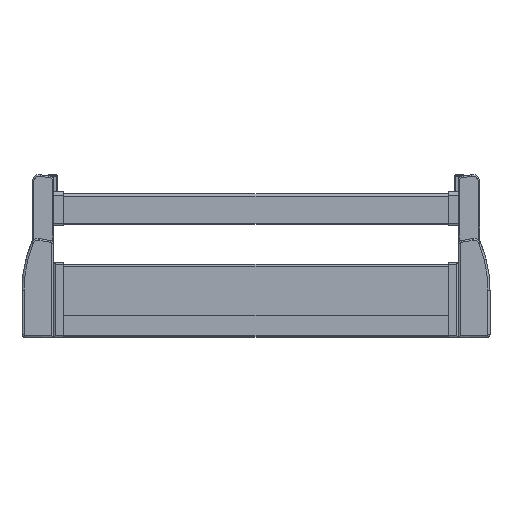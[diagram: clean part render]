
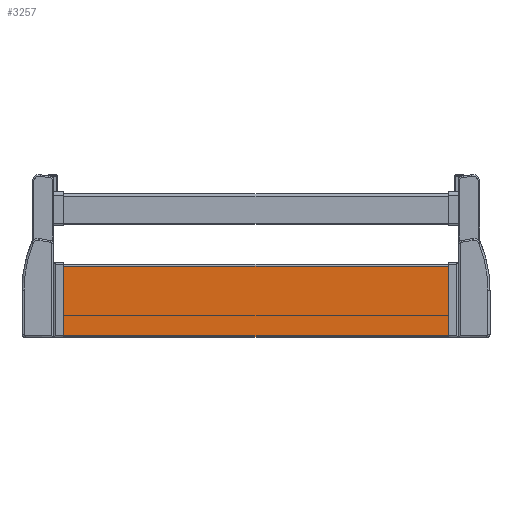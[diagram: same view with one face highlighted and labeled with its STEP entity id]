
A CAD part, top view. The second image highlights one B-rep face of the part: STEP entity #3257.
In plain terms, the highlighted planar face has unit normal (0, 0, 1).
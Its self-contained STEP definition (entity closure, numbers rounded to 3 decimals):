
#2194 = DIRECTION ( 'NONE',  ( 0., 1., 0. ) ) ;
#2196 = VECTOR ( 'NONE', #2194, 1000. ) ;
#2197 = CARTESIAN_POINT ( 'NONE',  ( 188.8, -92.5, 1.4 ) ) ;
#2198 = LINE ( 'NONE', #2197, #2196 ) ;
#2204 = CARTESIAN_POINT ( 'NONE',  ( 188.8, -23., 1.4 ) ) ;
#2543 = CARTESIAN_POINT ( 'NONE',  ( 188.8, -92.5, 1.4 ) ) ;
#2638 = DIRECTION ( 'NONE',  ( -1., 0., 0. ) ) ;
#2640 = VECTOR ( 'NONE', #2638, 1000. ) ;
#2642 = CARTESIAN_POINT ( 'NONE',  ( 262.556, -23., 1.4 ) ) ;
#2643 = LINE ( 'NONE', #2642, #2640 ) ;
#2676 = CARTESIAN_POINT ( 'NONE',  ( 262.556, -92.5, 1.4 ) ) ;
#2678 = LINE ( 'NONE', #2676, #2792 ) ;
#2701 = AXIS2_PLACEMENT_3D ( 'NONE', #2766, #2765, #2764 ) ;
#2702 = PLANE ( 'NONE',  #2701 ) ;
#2710 = FACE_OUTER_BOUND ( 'NONE', #3244, .T. ) ;
#2764 = DIRECTION ( 'NONE',  ( 0., 1., 0. ) ) ;
#2765 = DIRECTION ( 'NONE',  ( 0., 0., -1. ) ) ;
#2766 = CARTESIAN_POINT ( 'NONE',  ( 262.556, -92.5, 1.4 ) ) ;
#2767 = CARTESIAN_POINT ( 'NONE',  ( -188.8, -23., 1.4 ) ) ;
#2789 = CARTESIAN_POINT ( 'NONE',  ( -188.8, -92.5, 1.4 ) ) ;
#2791 = DIRECTION ( 'NONE',  ( -1., 0., 0. ) ) ;
#2792 = VECTOR ( 'NONE', #2791, 1000. ) ;
#3212 = VERTEX_POINT ( 'NONE', #2204 ) ;
#3214 = EDGE_CURVE ( 'NONE', #3215, #3212, #2198, .T. ) ;
#3215 = VERTEX_POINT ( 'NONE', #2543 ) ;
#3242 = ORIENTED_EDGE ( 'NONE', *, *, #3214, .T. ) ;
#3243 = ORIENTED_EDGE ( 'NONE', *, *, #3259, .T. ) ;
#3244 = EDGE_LOOP ( 'NONE', ( #3245, #3242, #3243, #3482 ) ) ;
#3245 = ORIENTED_EDGE ( 'NONE', *, *, #3252, .F. ) ;
#3252 = EDGE_CURVE ( 'NONE', #3215, #3254, #2678, .T. ) ;
#3254 = VERTEX_POINT ( 'NONE', #2789 ) ;
#3257 = ADVANCED_FACE ( 'NONE', ( #2710 ), #2702, .F. ) ;
#3258 = VERTEX_POINT ( 'NONE', #2767 ) ;
#3259 = EDGE_CURVE ( 'NONE', #3212, #3258, #2643, .T. ) ;
#3482 = ORIENTED_EDGE ( 'NONE', *, *, #3483, .F. ) ;
#3483 = EDGE_CURVE ( 'NONE', #3254, #3258, #4476, .T. ) ;
#4471 = DIRECTION ( 'NONE',  ( 0., 1., 0. ) ) ;
#4473 = VECTOR ( 'NONE', #4471, 1000. ) ;
#4474 = CARTESIAN_POINT ( 'NONE',  ( -188.8, -92.5, 1.4 ) ) ;
#4476 = LINE ( 'NONE', #4474, #4473 ) ;
